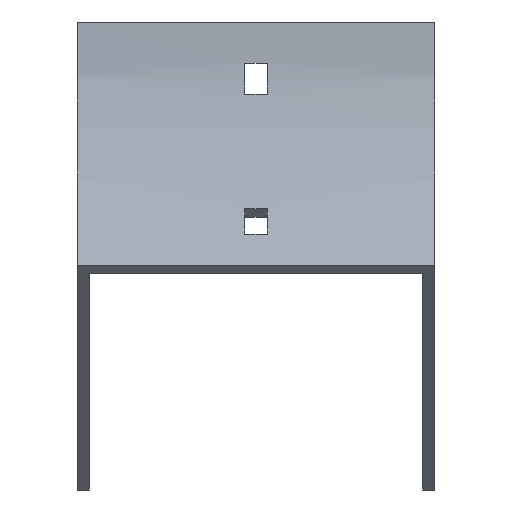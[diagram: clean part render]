
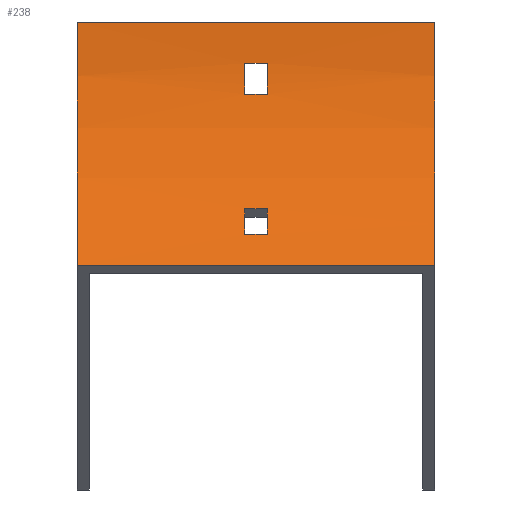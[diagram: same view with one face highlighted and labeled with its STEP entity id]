
A CAD part, front view. The second image highlights one B-rep face of the part: STEP entity #238.
In plain terms, the highlighted cylindrical face has radius 100 mm (diameter 200 mm), a partial arc.
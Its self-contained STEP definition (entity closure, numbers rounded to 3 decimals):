
#46 = LINE ( 'NONE', #952, #1353 ) ;
#106 = DIRECTION ( 'NONE',  ( -1., 0., 0. ) ) ;
#114 = DIRECTION ( 'NONE',  ( 0., 0., -1. ) ) ;
#133 = EDGE_CURVE ( 'NONE', #652, #1415, #1335, .T. ) ;
#136 = CYLINDRICAL_SURFACE ( 'NONE', #225, 100. ) ;
#141 = CARTESIAN_POINT ( 'NONE',  ( 52., 0., 0. ) ) ;
#163 = CARTESIAN_POINT ( 'NONE',  ( 52., -16.017, -54.285 ) ) ;
#171 = CIRCLE ( 'NONE', #1180, 100. ) ;
#192 = EDGE_CURVE ( 'NONE', #1354, #395, #388, .T. ) ;
#202 = CIRCLE ( 'NONE', #1075, 100. ) ;
#225 = AXIS2_PLACEMENT_3D ( 'NONE', #1301, #635, #1423 ) ;
#238 = ADVANCED_FACE ( 'NONE', ( #1192, #905, #649 ), #136, .F. ) ;
#276 = AXIS2_PLACEMENT_3D ( 'NONE', #1117, #1239, #347 ) ;
#282 = EDGE_LOOP ( 'NONE', ( #1545, #1182, #757, #547 ) ) ;
#294 = DIRECTION ( 'NONE',  ( 1., 0., 0. ) ) ;
#308 = CARTESIAN_POINT ( 'NONE',  ( 52., -29.289, -70.711 ) ) ;
#310 = ORIENTED_EDGE ( 'NONE', *, *, #784, .T. ) ;
#316 = DIRECTION ( 'NONE',  ( -1., 0., 0. ) ) ;
#335 = CARTESIAN_POINT ( 'NONE',  ( 52., -100., 0. ) ) ;
#340 = DIRECTION ( 'NONE',  ( 0., 0., 1. ) ) ;
#342 = ORIENTED_EDGE ( 'NONE', *, *, #192, .F. ) ;
#347 = DIRECTION ( 'NONE',  ( 0., 0., 1. ) ) ;
#376 = EDGE_CURVE ( 'NONE', #918, #1202, #171, .T. ) ;
#388 = CIRCLE ( 'NONE', #910, 100. ) ;
#390 = ORIENTED_EDGE ( 'NONE', *, *, #133, .T. ) ;
#395 = VERTEX_POINT ( 'NONE', #308 ) ;
#435 = DIRECTION ( 'NONE',  ( -1., 0., 0. ) ) ;
#467 = CARTESIAN_POINT ( 'NONE',  ( -52., -100., 0. ) ) ;
#471 = VECTOR ( 'NONE', #435, 1000. ) ;
#528 = CIRCLE ( 'NONE', #1683, 100. ) ;
#547 = ORIENTED_EDGE ( 'NONE', *, *, #617, .F. ) ;
#613 = LINE ( 'NONE', #1143, #1322 ) ;
#617 = EDGE_CURVE ( 'NONE', #1202, #1156, #46, .T. ) ;
#622 = EDGE_CURVE ( 'NONE', #1007, #918, #1328, .T. ) ;
#635 = DIRECTION ( 'NONE',  ( -1., 0., 0. ) ) ;
#649 = FACE_BOUND ( 'NONE', #282, .T. ) ;
#652 = VERTEX_POINT ( 'NONE', #1372 ) ;
#665 = EDGE_CURVE ( 'NONE', #1156, #1007, #1236, .T. ) ;
#686 = DIRECTION ( 'NONE',  ( -1., 0., 0. ) ) ;
#713 = AXIS2_PLACEMENT_3D ( 'NONE', #467, #1474, #1492 ) ;
#730 = CARTESIAN_POINT ( 'NONE',  ( -52., -29.289, -70.711 ) ) ;
#749 = CARTESIAN_POINT ( 'NONE',  ( -52., 0., 0. ) ) ;
#757 = ORIENTED_EDGE ( 'NONE', *, *, #665, .F. ) ;
#782 = CARTESIAN_POINT ( 'NONE',  ( 3.25, -16.017, -54.285 ) ) ;
#784 = EDGE_CURVE ( 'NONE', #1354, #1657, #1364, .T. ) ;
#807 = DIRECTION ( 'NONE',  ( 0., 0., -1. ) ) ;
#842 = DIRECTION ( 'NONE',  ( 1., 0., 0. ) ) ;
#850 = EDGE_CURVE ( 'NONE', #1657, #1243, #1573, .T. ) ;
#865 = DIRECTION ( 'NONE',  ( -1., 0., 0. ) ) ;
#883 = DIRECTION ( 'NONE',  ( 1., 0., 0. ) ) ;
#894 = LINE ( 'NONE', #1444, #1656 ) ;
#905 = FACE_BOUND ( 'NONE', #1526, .T. ) ;
#910 = AXIS2_PLACEMENT_3D ( 'NONE', #335, #865, #1387 ) ;
#918 = VERTEX_POINT ( 'NONE', #1521 ) ;
#952 = CARTESIAN_POINT ( 'NONE',  ( 52., -21.315, -61.714 ) ) ;
#957 = EDGE_CURVE ( 'NONE', #1529, #1445, #613, .T. ) ;
#960 = DIRECTION ( 'NONE',  ( -1., 0., 0. ) ) ;
#983 = CARTESIAN_POINT ( 'NONE',  ( 52., -2.23, -21. ) ) ;
#990 = ORIENTED_EDGE ( 'NONE', *, *, #1173, .T. ) ;
#1007 = VERTEX_POINT ( 'NONE', #782 ) ;
#1048 = ORIENTED_EDGE ( 'NONE', *, *, #1245, .T. ) ;
#1075 = AXIS2_PLACEMENT_3D ( 'NONE', #1384, #842, #340 ) ;
#1087 = CARTESIAN_POINT ( 'NONE',  ( 52., 0., 0. ) ) ;
#1117 = CARTESIAN_POINT ( 'NONE',  ( 3.25, -100., 0. ) ) ;
#1143 = CARTESIAN_POINT ( 'NONE',  ( 52., -0.723, -12. ) ) ;
#1156 = VERTEX_POINT ( 'NONE', #1392 ) ;
#1173 = EDGE_CURVE ( 'NONE', #1415, #1529, #202, .T. ) ;
#1180 = AXIS2_PLACEMENT_3D ( 'NONE', #1611, #316, #807 ) ;
#1182 = ORIENTED_EDGE ( 'NONE', *, *, #622, .F. ) ;
#1188 = CARTESIAN_POINT ( 'NONE',  ( -3.25, -2.23, -21. ) ) ;
#1192 = FACE_OUTER_BOUND ( 'NONE', #1578, .T. ) ;
#1202 = VERTEX_POINT ( 'NONE', #1636 ) ;
#1204 = CARTESIAN_POINT ( 'NONE',  ( 3.25, -0.723, -12. ) ) ;
#1236 = CIRCLE ( 'NONE', #276, 100. ) ;
#1239 = DIRECTION ( 'NONE',  ( 1., 0., 0. ) ) ;
#1243 = VERTEX_POINT ( 'NONE', #730 ) ;
#1245 = EDGE_CURVE ( 'NONE', #1445, #652, #528, .T. ) ;
#1260 = CARTESIAN_POINT ( 'NONE',  ( 3.25, -100., 0. ) ) ;
#1301 = CARTESIAN_POINT ( 'NONE',  ( 52., -100., 0. ) ) ;
#1310 = ORIENTED_EDGE ( 'NONE', *, *, #1321, .F. ) ;
#1321 = EDGE_CURVE ( 'NONE', #395, #1243, #894, .T. ) ;
#1322 = VECTOR ( 'NONE', #883, 1000. ) ;
#1328 = LINE ( 'NONE', #163, #1577 ) ;
#1335 = LINE ( 'NONE', #983, #1624 ) ;
#1353 = VECTOR ( 'NONE', #294, 1000. ) ;
#1354 = VERTEX_POINT ( 'NONE', #141 ) ;
#1364 = LINE ( 'NONE', #1087, #471 ) ;
#1372 = CARTESIAN_POINT ( 'NONE',  ( 3.25, -2.23, -21. ) ) ;
#1384 = CARTESIAN_POINT ( 'NONE',  ( -3.25, -100., 0. ) ) ;
#1387 = DIRECTION ( 'NONE',  ( 0., 0., 1. ) ) ;
#1392 = CARTESIAN_POINT ( 'NONE',  ( 3.25, -21.315, -61.714 ) ) ;
#1415 = VERTEX_POINT ( 'NONE', #1188 ) ;
#1419 = DIRECTION ( 'NONE',  ( -1., 0., 0. ) ) ;
#1423 = DIRECTION ( 'NONE',  ( 0., 0., 1. ) ) ;
#1444 = CARTESIAN_POINT ( 'NONE',  ( 52., -29.289, -70.711 ) ) ;
#1445 = VERTEX_POINT ( 'NONE', #1204 ) ;
#1474 = DIRECTION ( 'NONE',  ( -1., 0., 0. ) ) ;
#1492 = DIRECTION ( 'NONE',  ( 0., 0., 1. ) ) ;
#1498 = ORIENTED_EDGE ( 'NONE', *, *, #957, .T. ) ;
#1511 = CARTESIAN_POINT ( 'NONE',  ( -3.25, -0.723, -12. ) ) ;
#1521 = CARTESIAN_POINT ( 'NONE',  ( -3.25, -16.017, -54.285 ) ) ;
#1526 = EDGE_LOOP ( 'NONE', ( #390, #990, #1498, #1048 ) ) ;
#1529 = VERTEX_POINT ( 'NONE', #1511 ) ;
#1545 = ORIENTED_EDGE ( 'NONE', *, *, #376, .F. ) ;
#1573 = CIRCLE ( 'NONE', #713, 100. ) ;
#1577 = VECTOR ( 'NONE', #960, 1000. ) ;
#1578 = EDGE_LOOP ( 'NONE', ( #1588, #1310, #342, #310 ) ) ;
#1588 = ORIENTED_EDGE ( 'NONE', *, *, #850, .T. ) ;
#1611 = CARTESIAN_POINT ( 'NONE',  ( -3.25, -100., 0. ) ) ;
#1624 = VECTOR ( 'NONE', #686, 1000. ) ;
#1636 = CARTESIAN_POINT ( 'NONE',  ( -3.25, -21.315, -61.714 ) ) ;
#1656 = VECTOR ( 'NONE', #1419, 1000. ) ;
#1657 = VERTEX_POINT ( 'NONE', #749 ) ;
#1683 = AXIS2_PLACEMENT_3D ( 'NONE', #1260, #106, #114 ) ;
